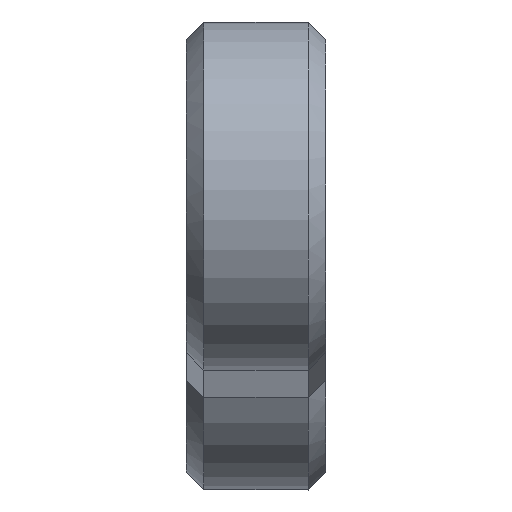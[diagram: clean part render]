
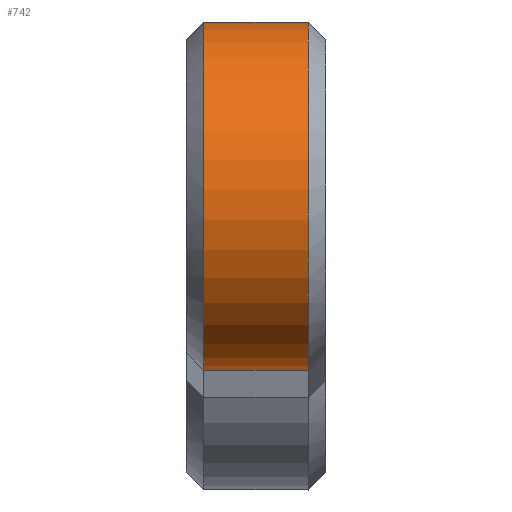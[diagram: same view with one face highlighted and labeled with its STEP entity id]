
A CAD part, top view. The second image highlights one B-rep face of the part: STEP entity #742.
In plain terms, the highlighted cylindrical face has radius 10 mm (diameter 20 mm), a partial arc.
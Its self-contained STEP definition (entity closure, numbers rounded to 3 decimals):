
#244=CARTESIAN_POINT('',(108.,24.816,-541.762));
#245=DIRECTION('',(-1.,0.,0.));
#246=DIRECTION('',(0.,-0.53,-0.848));
#247=AXIS2_PLACEMENT_3D('',#244,#245,#246);
#249=CARTESIAN_POINT('',(108.,24.816,-541.762));
#250=DIRECTION('',(-1.,0.,0.));
#251=DIRECTION('',(0.,-0.999,0.035));
#252=AXIS2_PLACEMENT_3D('',#249,#250,#251);
#254=CARTESIAN_POINT('',(108.,24.816,-541.762));
#255=DIRECTION('',(-1.,0.,0.));
#256=DIRECTION('',(0.,0.999,-0.035));
#257=AXIS2_PLACEMENT_3D('',#254,#255,#256);
#259=DIRECTION('',(-1.,0.,0.));
#260=VECTOR('',#259,6.);
#261=CARTESIAN_POINT('',(108.,19.516,-550.242));
#262=LINE('',#261,#260);
#263=DIRECTION('',(1.,0.,0.));
#264=VECTOR('',#263,6.);
#265=CARTESIAN_POINT('',(102.,29.51,-550.591));
#266=LINE('',#265,#264);
#274=CARTESIAN_POINT('',(102.,24.816,-541.762));
#275=DIRECTION('',(1.,0.,0.));
#276=DIRECTION('',(0.,0.469,-0.883));
#277=AXIS2_PLACEMENT_3D('',#274,#275,#276);
#279=CARTESIAN_POINT('',(102.,24.816,-541.762));
#280=DIRECTION('',(1.,0.,0.));
#281=DIRECTION('',(0.,0.999,-0.035));
#282=AXIS2_PLACEMENT_3D('',#279,#280,#281);
#284=CARTESIAN_POINT('',(102.,24.816,-541.762));
#285=DIRECTION('',(1.,0.,0.));
#286=DIRECTION('',(0.,-0.999,0.035));
#287=AXIS2_PLACEMENT_3D('',#284,#285,#286);
#400=CARTESIAN_POINT('',(108.,19.516,-550.242));
#402=VERTEX_POINT('',#400);
#405=CARTESIAN_POINT('',(102.,19.516,-550.242));
#407=VERTEX_POINT('',#405);
#438=CARTESIAN_POINT('',(102.,29.51,-550.591));
#439=VERTEX_POINT('',#438);
#442=CARTESIAN_POINT('',(108.,29.51,-550.591));
#443=VERTEX_POINT('',#442);
#448=CARTESIAN_POINT('',(108.,14.822,-541.413));
#449=CARTESIAN_POINT('',(108.,34.809,-542.111));
#450=VERTEX_POINT('',#448);
#451=VERTEX_POINT('',#449);
#452=CARTESIAN_POINT('',(102.,14.822,-541.413));
#453=VERTEX_POINT('',#452);
#454=CARTESIAN_POINT('',(102.,34.809,-542.111));
#455=VERTEX_POINT('',#454);
#724=CARTESIAN_POINT('',(109.,24.816,-541.762));
#725=DIRECTION('',(-1.,0.,0.));
#726=DIRECTION('',(0.,0.999,-0.035));
#727=AXIS2_PLACEMENT_3D('',#724,#725,#726);
#728=CYLINDRICAL_SURFACE('',#727,10.);
#729=ORIENTED_EDGE('',*,*,#712,.F.);
#730=ORIENTED_EDGE('',*,*,#710,.F.);
#731=ORIENTED_EDGE('',*,*,#545,.T.);
#733=ORIENTED_EDGE('',*,*,#732,.F.);
#735=ORIENTED_EDGE('',*,*,#734,.F.);
#737=ORIENTED_EDGE('',*,*,#736,.F.);
#738=ORIENTED_EDGE('',*,*,#649,.T.);
#739=ORIENTED_EDGE('',*,*,#714,.F.);
#740=EDGE_LOOP('',(#729,#730,#731,#733,#735,#737,#738,#739));
#741=FACE_OUTER_BOUND('',#740,.F.);
#742=ADVANCED_FACE('',(#741),#728,.T.);
#248=CIRCLE('',#247,10.);
#253=CIRCLE('',#252,10.);
#258=CIRCLE('',#257,10.);
#278=CIRCLE('',#277,10.);
#283=CIRCLE('',#282,10.);
#288=CIRCLE('',#287,10.);
#545=EDGE_CURVE('',#402,#407,#262,.T.);
#649=EDGE_CURVE('',#439,#443,#266,.T.);
#710=EDGE_CURVE('',#402,#450,#248,.T.);
#712=EDGE_CURVE('',#450,#451,#253,.T.);
#714=EDGE_CURVE('',#451,#443,#258,.T.);
#732=EDGE_CURVE('',#453,#407,#288,.T.);
#734=EDGE_CURVE('',#455,#453,#283,.T.);
#736=EDGE_CURVE('',#439,#455,#278,.T.);
